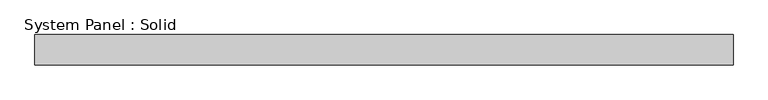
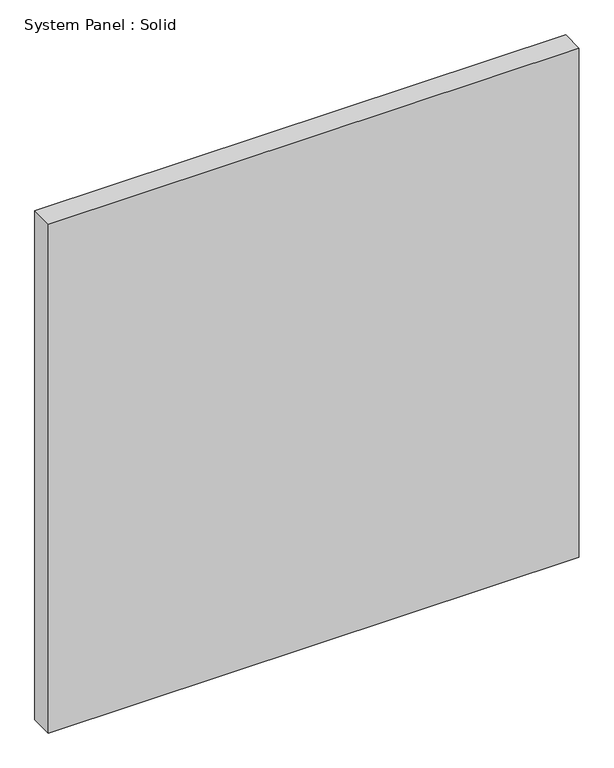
"""IFC4 building model written with IfcOpenShell, lengths in millimetres: plate geometry, System Panel : Solid."""

from ifc_helpers import new_model, si_unit, origin, origin_with_axes, place, context, project, spatial, polyline, outline, extrude, source, transform, mapped, element, save


def system_panel_solid_51be2c86(model_context):
    return source(origin(), model_context, "Body", "SweptSolid", [
        extrude(outline(polyline([(733.425, -19.05), (-733.425, -19.05), (-733.425, 44.45), (733.425, 44.45), (733.425, -19.05)])), origin_with_axes(), (0.0, 0.0, 1.0), 1485.9),
    ])


if __name__ == "__main__":
    model = new_model("IFC4")
    model_context = context("Model", 3, world=origin())
    ifc_project = project(units=[si_unit("LENGTHUNIT", "METRE", prefix="MILLI")], contexts=[model_context])
    site = spatial("IfcSite", under=ifc_project)
    building = spatial("IfcBuilding", under=site)
    placement = place(None, origin())
    system_panel_solid_shape = system_panel_solid_51be2c86(model_context)
    element("IfcPlate", 1, ObjectType="System Panel : Solid", at=placement, inside=building, context=model_context, shape_type="MappedRepresentation", body=[
        mapped(system_panel_solid_shape, transform((0.0, 0.0, 0.0), x_axis=(1.0, 0.0, 0.0), y_axis=(0.0, 1.0, 0.0), z_axis=(0.0, 0.0, 1.0))),
    ])
    save(model, "model.ifc")
